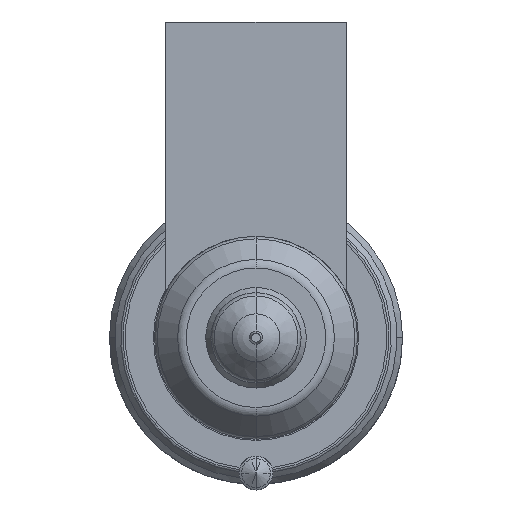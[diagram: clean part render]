
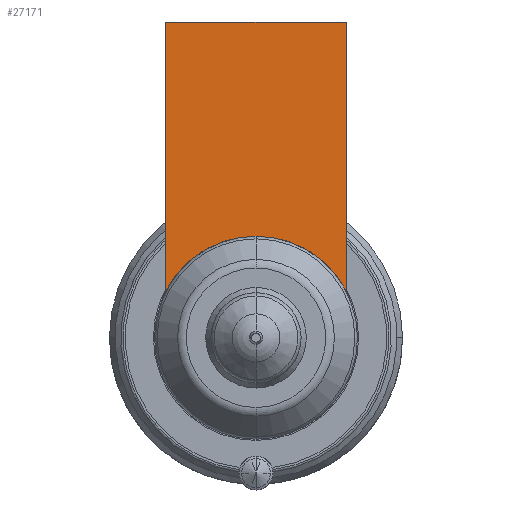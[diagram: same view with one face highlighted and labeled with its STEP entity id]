
A CAD part, front view. The second image highlights one B-rep face of the part: STEP entity #27171.
In plain terms, the highlighted planar face has unit normal (0, -1, 0).
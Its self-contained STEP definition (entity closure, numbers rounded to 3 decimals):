
#26282=DIRECTION('',(1.,0.,0.));
#26283=VECTOR('',#26282,16.);
#26284=CARTESIAN_POINT('',(-8.,-54.,28.));
#26285=LINE('',#26284,#26283);
#26290=CARTESIAN_POINT('',(0.,-54.,0.));
#26291=DIRECTION('',(0.,-1.,0.));
#26292=DIRECTION('',(0.889,0.,0.458));
#26293=AXIS2_PLACEMENT_3D('',#26290,#26291,#26292);
#26298=CARTESIAN_POINT('',(0.,-54.,0.));
#26299=DIRECTION('',(0.,-1.,0.));
#26300=DIRECTION('',(0.,0.,1.));
#26301=AXIS2_PLACEMENT_3D('',#26298,#26299,#26300);
#26327=DIRECTION('',(0.,0.,-1.));
#26328=VECTOR('',#26327,23.877);
#26329=CARTESIAN_POINT('',(-8.,-54.,28.));
#26330=LINE('',#26329,#26328);
#27015=DIRECTION('',(0.,0.,-1.));
#27016=VECTOR('',#27015,23.877);
#27017=CARTESIAN_POINT('',(8.,-54.,28.));
#27018=LINE('',#27017,#27016);
#27068=CARTESIAN_POINT('',(-8.,-54.,28.));
#27069=VERTEX_POINT('',#27068);
#27074=CARTESIAN_POINT('',(8.,-54.,28.));
#27075=VERTEX_POINT('',#27074);
#27078=CARTESIAN_POINT('',(-8.,-54.,4.123));
#27079=VERTEX_POINT('',#27078);
#27082=CARTESIAN_POINT('',(8.,-54.,4.123));
#27083=VERTEX_POINT('',#27082);
#27152=CARTESIAN_POINT('',(0.,-54.,9.));
#27153=VERTEX_POINT('',#27152);
#27154=CARTESIAN_POINT('',(0.,-54.,9.));
#27155=DIRECTION('',(0.,1.,0.));
#27156=DIRECTION('',(0.,0.,-1.));
#27157=AXIS2_PLACEMENT_3D('',#27154,#27155,#27156);
#27158=PLANE('',#27157);
#27160=ORIENTED_EDGE('',*,*,#27159,.F.);
#27162=ORIENTED_EDGE('',*,*,#27161,.T.);
#27164=ORIENTED_EDGE('',*,*,#27163,.T.);
#27166=ORIENTED_EDGE('',*,*,#27165,.T.);
#27168=ORIENTED_EDGE('',*,*,#27167,.T.);
#27169=EDGE_LOOP('',(#27160,#27162,#27164,#27166,#27168));
#27170=FACE_OUTER_BOUND('',#27169,.F.);
#27171=ADVANCED_FACE('',(#27170),#27158,.F.);
#26294=CIRCLE('',#26293,9.);
#26302=CIRCLE('',#26301,9.);
#27159=EDGE_CURVE('',#27069,#27079,#26330,.T.);
#27161=EDGE_CURVE('',#27069,#27075,#26285,.T.);
#27163=EDGE_CURVE('',#27075,#27083,#27018,.T.);
#27165=EDGE_CURVE('',#27083,#27153,#26294,.T.);
#27167=EDGE_CURVE('',#27153,#27079,#26302,.T.);
